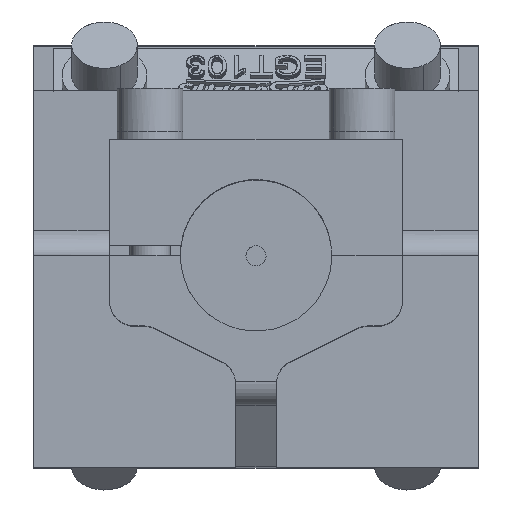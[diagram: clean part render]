
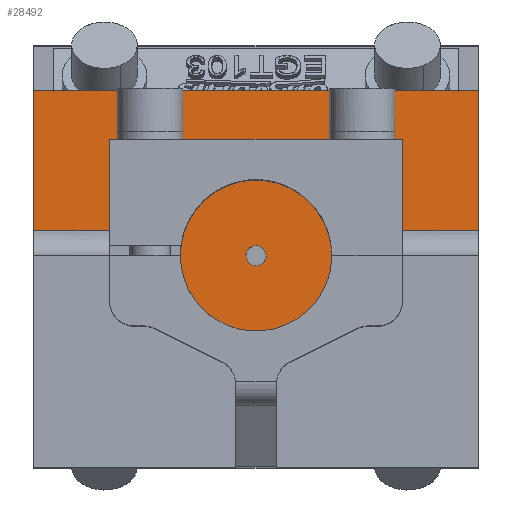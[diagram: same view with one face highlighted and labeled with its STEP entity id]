
A CAD part, top view. The second image highlights one B-rep face of the part: STEP entity #28492.
In plain terms, the highlighted planar face has unit normal (0, 0, 1).
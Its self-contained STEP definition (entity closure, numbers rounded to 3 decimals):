
#27867=CARTESIAN_POINT('Vertex',(-44.,5.,51.553)) ;
#27870=CARTESIAN_POINT('Line Origine',(-44.,18.828,51.553)) ;
#27874=CARTESIAN_POINT('Vertex',(-44.,32.655,51.553)) ;
#28072=CARTESIAN_POINT('Vertex',(44.,32.655,51.553)) ;
#28075=CARTESIAN_POINT('Line Origine',(44.,18.828,51.553)) ;
#28079=CARTESIAN_POINT('Vertex',(44.,5.,51.553)) ;
#28405=CARTESIAN_POINT('Vertex',(-14.142,5.,51.553)) ;
#28408=CARTESIAN_POINT('Line Origine',(0.,5.,51.553)) ;
#28420=CARTESIAN_POINT('Axis2P3D Location',(0.,5.,51.553)) ;
#28425=CARTESIAN_POINT('Axis2P3D Location',(0.,0.,51.553)) ;
#28429=CARTESIAN_POINT('Vertex',(-15.,0.,51.553)) ;
#28432=CARTESIAN_POINT('Axis2P3D Location',(0.,0.,51.553)) ;
#28436=CARTESIAN_POINT('Vertex',(14.142,-5.,51.553)) ;
#28439=CARTESIAN_POINT('Axis2P3D Location',(0.,0.,51.553)) ;
#28443=CARTESIAN_POINT('Vertex',(15.,0.,51.553)) ;
#28446=CARTESIAN_POINT('Axis2P3D Location',(0.,0.,51.553)) ;
#28450=CARTESIAN_POINT('Vertex',(14.142,5.,51.553)) ;
#28453=CARTESIAN_POINT('Line Origine',(29.071,5.,51.553)) ;
#28458=CARTESIAN_POINT('Line Origine',(0.,32.655,51.553)) ;
#28474=CARTESIAN_POINT('Axis2P3D Location',(0.,0.,51.553)) ;
#28478=CARTESIAN_POINT('Vertex',(1.755,0.959,51.553)) ;
#28480=CARTESIAN_POINT('Vertex',(-1.755,-0.959,51.553)) ;
#28483=CARTESIAN_POINT('Axis2P3D Location',(0.,0.,51.553)) ;
#27871=DIRECTION('Vector Direction',(0.,1.,0.)) ;
#28076=DIRECTION('Vector Direction',(0.,1.,0.)) ;
#28409=DIRECTION('Vector Direction',(1.,0.,0.)) ;
#28421=DIRECTION('Axis2P3D Direction',(0.,0.,-1.)) ;
#28422=DIRECTION('Axis2P3D XDirection',(0.,1.,0.)) ;
#28426=DIRECTION('Axis2P3D Direction',(0.,0.,-1.)) ;
#28433=DIRECTION('Axis2P3D Direction',(0.,0.,-1.)) ;
#28440=DIRECTION('Axis2P3D Direction',(0.,0.,-1.)) ;
#28447=DIRECTION('Axis2P3D Direction',(0.,0.,-1.)) ;
#28454=DIRECTION('Vector Direction',(1.,0.,0.)) ;
#28459=DIRECTION('Vector Direction',(1.,0.,0.)) ;
#28475=DIRECTION('Axis2P3D Direction',(0.,0.,-1.)) ;
#28484=DIRECTION('Axis2P3D Direction',(0.,0.,-1.)) ;
#28423=AXIS2_PLACEMENT_3D('Plane Axis2P3D',#28420,#28421,#28422) ;
#28427=AXIS2_PLACEMENT_3D('Circle Axis2P3D',#28425,#28426,$) ;
#28434=AXIS2_PLACEMENT_3D('Circle Axis2P3D',#28432,#28433,$) ;
#28441=AXIS2_PLACEMENT_3D('Circle Axis2P3D',#28439,#28440,$) ;
#28448=AXIS2_PLACEMENT_3D('Circle Axis2P3D',#28446,#28447,$) ;
#28476=AXIS2_PLACEMENT_3D('Circle Axis2P3D',#28474,#28475,$) ;
#28485=AXIS2_PLACEMENT_3D('Circle Axis2P3D',#28483,#28484,$) ;
#28464=ORIENTED_EDGE('',*,*,#28431,.T.) ;
#28465=ORIENTED_EDGE('',*,*,#28438,.T.) ;
#28466=ORIENTED_EDGE('',*,*,#28445,.T.) ;
#28467=ORIENTED_EDGE('',*,*,#28452,.T.) ;
#28468=ORIENTED_EDGE('',*,*,#28457,.T.) ;
#28469=ORIENTED_EDGE('',*,*,#28081,.F.) ;
#28470=ORIENTED_EDGE('',*,*,#28462,.F.) ;
#28471=ORIENTED_EDGE('',*,*,#27876,.T.) ;
#28472=ORIENTED_EDGE('',*,*,#28412,.T.) ;
#28489=ORIENTED_EDGE('',*,*,#28482,.T.) ;
#28490=ORIENTED_EDGE('',*,*,#28487,.T.) ;
#28491=FACE_BOUND('',#28488,.T.) ;
#27872=VECTOR('Line Direction',#27871,1.) ;
#28077=VECTOR('Line Direction',#28076,1.) ;
#28410=VECTOR('Line Direction',#28409,1.) ;
#28455=VECTOR('Line Direction',#28454,1.) ;
#28460=VECTOR('Line Direction',#28459,1.) ;
#28492=ADVANCED_FACE('EGT_103_80RD30_L90_SIM_ET.1\\PartBody',(#28473,#28491),#28424,.F.) ;
#28428=CIRCLE('generated circle',#28427,15.) ;
#28435=CIRCLE('generated circle',#28434,15.) ;
#28442=CIRCLE('generated circle',#28441,15.) ;
#28449=CIRCLE('generated circle',#28448,15.) ;
#28477=CIRCLE('generated circle',#28476,2.) ;
#28486=CIRCLE('generated circle',#28485,2.) ;
#27876=EDGE_CURVE('',#27875,#27868,#27873,.F.) ;
#28081=EDGE_CURVE('',#28073,#28080,#28078,.F.) ;
#28412=EDGE_CURVE('',#27868,#28406,#28411,.T.) ;
#28431=EDGE_CURVE('',#28406,#28430,#28428,.F.) ;
#28438=EDGE_CURVE('',#28430,#28437,#28435,.F.) ;
#28445=EDGE_CURVE('',#28437,#28444,#28442,.F.) ;
#28452=EDGE_CURVE('',#28444,#28451,#28449,.F.) ;
#28457=EDGE_CURVE('',#28451,#28080,#28456,.T.) ;
#28462=EDGE_CURVE('',#27875,#28073,#28461,.T.) ;
#28482=EDGE_CURVE('',#28479,#28481,#28477,.T.) ;
#28487=EDGE_CURVE('',#28481,#28479,#28486,.T.) ;
#28463=EDGE_LOOP('',(#28464,#28465,#28466,#28467,#28468,#28469,#28470,#28471,#28472)) ;
#28488=EDGE_LOOP('',(#28489,#28490)) ;
#28473=FACE_OUTER_BOUND('',#28463,.T.) ;
#27873=LINE('Line',#27870,#27872) ;
#28078=LINE('Line',#28075,#28077) ;
#28411=LINE('Line',#28408,#28410) ;
#28456=LINE('Line',#28453,#28455) ;
#28461=LINE('Line',#28458,#28460) ;
#28424=PLANE('',#28423) ;
#27868=VERTEX_POINT('',#27867) ;
#27875=VERTEX_POINT('',#27874) ;
#28073=VERTEX_POINT('',#28072) ;
#28080=VERTEX_POINT('',#28079) ;
#28406=VERTEX_POINT('',#28405) ;
#28430=VERTEX_POINT('',#28429) ;
#28437=VERTEX_POINT('',#28436) ;
#28444=VERTEX_POINT('',#28443) ;
#28451=VERTEX_POINT('',#28450) ;
#28479=VERTEX_POINT('',#28478) ;
#28481=VERTEX_POINT('',#28480) ;
